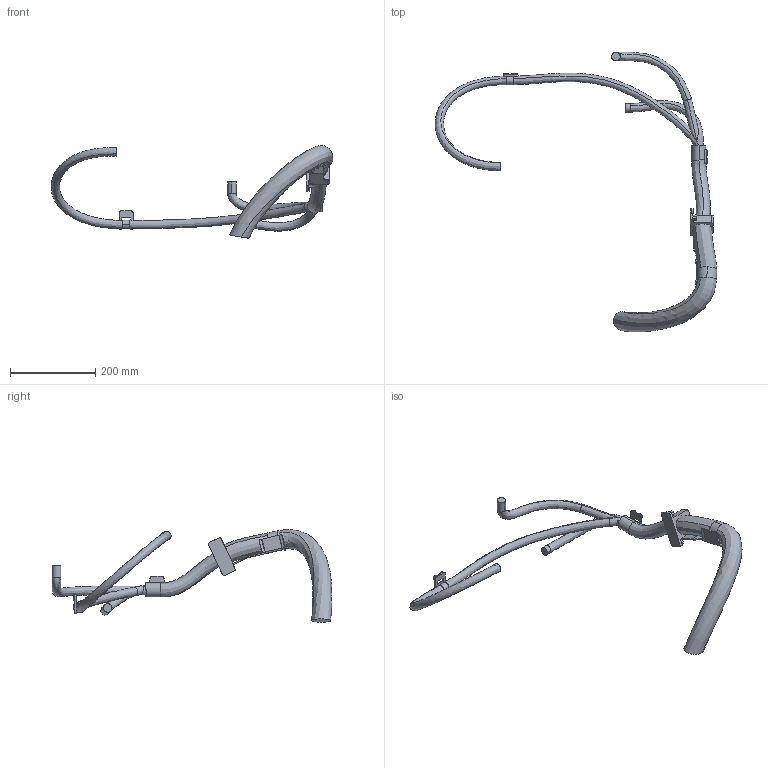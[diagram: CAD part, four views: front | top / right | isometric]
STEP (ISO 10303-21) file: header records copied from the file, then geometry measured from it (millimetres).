
FILE_DESCRIPTION (( 'STEP AP214' ), '1' );
FILE_NAME ('IRB6760_All_OC_00_LINK03m_CABLE.step', '2025-09-30T13:15:45', ( '' ), ( '' ), 'SwSTEP 2.0', 'SolidWorks 2024', '' );
FILE_SCHEMA (( 'AUTOMOTIVE_DESIGN' ));
Length unit declared in the file: millimetre
Products named in the file (1): IRB6760_All_OC_00_LINK03m_CABLE
Bounding box: 660.9 x 656.51 x 217.3 mm (x, y, z)
Volume: 1458179.4 mm3; surface area: 207829.5 mm2
Topology: 1 solids, 1 shells, 223 faces, 591 edges, 375 vertices
Faces by surface type: plane 118, cylinder 81, bspline 24
Entity records: 12287 total; most frequent: CARTESIAN_POINT 6885, ORIENTED_EDGE 1180, DIRECTION 1058, EDGE_CURVE 590, VERTEX_POINT 375, AXIS2_PLACEMENT_3D 368, LINE 322, VECTOR 322
